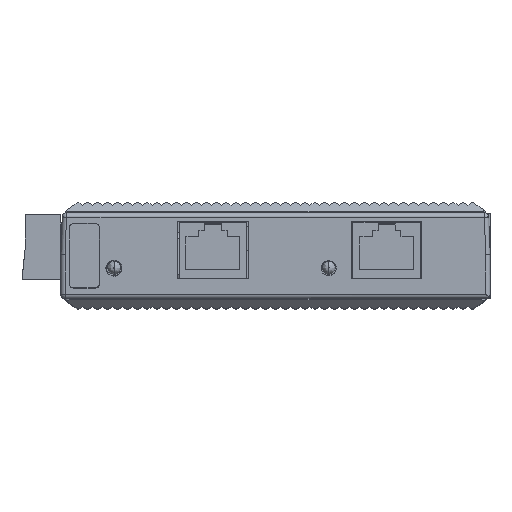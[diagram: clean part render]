
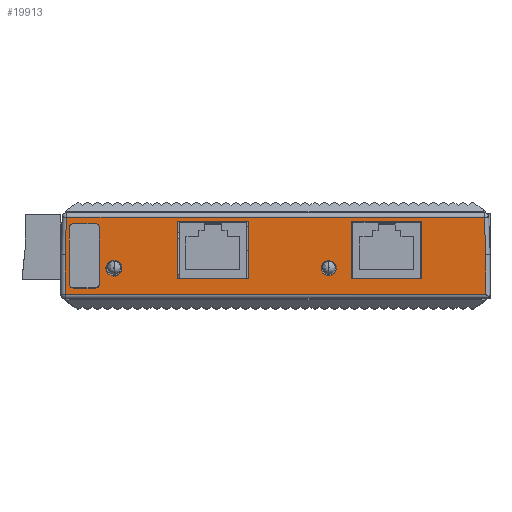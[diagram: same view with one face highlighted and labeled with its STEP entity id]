
A CAD part, top view. The second image highlights one B-rep face of the part: STEP entity #19913.
In plain terms, the highlighted planar face has unit normal (0, 0, 1).
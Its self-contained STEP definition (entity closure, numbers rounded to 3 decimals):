
#5943=DIRECTION('',(1.,0.,0.));
#5944=VECTOR('',#5943,98.);
#5945=CARTESIAN_POINT('',(-49.,-9.,39.));
#5946=LINE('',#5945,#5944);
#5974=CARTESIAN_POINT('',(-49.,0.233,39.));
#5976=DIRECTION('',(0.,-1.,0.));
#5977=VECTOR('',#5976,9.233);
#5978=CARTESIAN_POINT('',(-49.,0.233,39.));
#5979=LINE('',#5978,#5977);
#8648=CARTESIAN_POINT('',(-37.8,-2.9,39.));
#8649=DIRECTION('',(0.,0.,-1.));
#8650=DIRECTION('',(-0.724,-0.689,0.));
#8651=AXIS2_PLACEMENT_3D('',#8648,#8649,#8650);
#8657=CARTESIAN_POINT('',(-37.6,-2.9,39.));
#8658=DIRECTION('',(0.,0.,-1.));
#8659=DIRECTION('',(-0.774,0.634,0.));
#8660=AXIS2_PLACEMENT_3D('',#8657,#8658,#8659);
#8662=CARTESIAN_POINT('',(-42.,6.5,39.));
#8663=DIRECTION('',(0.,0.,1.));
#8664=DIRECTION('',(1.,0.,0.));
#8665=AXIS2_PLACEMENT_3D('',#8662,#8663,#8664);
#8667=DIRECTION('',(-1.,0.,0.));
#8668=VECTOR('',#8667,5.);
#8669=CARTESIAN_POINT('',(-42.,7.526,39.));
#8670=LINE('',#8669,#8668);
#8671=CARTESIAN_POINT('',(-47.,6.5,39.));
#8672=DIRECTION('',(0.,0.,1.));
#8673=DIRECTION('',(0.,1.,0.));
#8674=AXIS2_PLACEMENT_3D('',#8671,#8672,#8673);
#8676=DIRECTION('',(0.,-1.,0.));
#8677=VECTOR('',#8676,13.);
#8678=CARTESIAN_POINT('',(-48.026,6.5,39.));
#8679=LINE('',#8678,#8677);
#8680=CARTESIAN_POINT('',(-47.,-6.5,39.));
#8681=DIRECTION('',(0.,0.,1.));
#8682=DIRECTION('',(-1.,0.,0.));
#8683=AXIS2_PLACEMENT_3D('',#8680,#8681,#8682);
#8685=DIRECTION('',(1.,0.,0.));
#8686=VECTOR('',#8685,5.);
#8687=CARTESIAN_POINT('',(-47.,-7.526,39.));
#8688=LINE('',#8687,#8686);
#8689=CARTESIAN_POINT('',(-42.,-6.5,39.));
#8690=DIRECTION('',(0.,0.,1.));
#8691=DIRECTION('',(0.,-1.,0.));
#8692=AXIS2_PLACEMENT_3D('',#8689,#8690,#8691);
#8694=DIRECTION('',(1.,0.,0.));
#8695=VECTOR('',#8694,80.862);
#8696=CARTESIAN_POINT('',(-35.431,9.,39.));
#8697=LINE('',#8696,#8695);
#8698=DIRECTION('',(0.035,0.999,0.));
#8699=VECTOR('',#8698,8.773);
#8700=CARTESIAN_POINT('',(-49.,0.233,39.));
#8701=LINE('',#8700,#8699);
#8702=DIRECTION('',(-1.,0.,0.));
#8703=VECTOR('',#8702,16.4);
#8704=CARTESIAN_POINT('',(34.145,8.05,39.));
#8705=LINE('',#8704,#8703);
#8706=DIRECTION('',(0.,-1.,0.));
#8707=VECTOR('',#8706,13.45);
#8708=CARTESIAN_POINT('',(17.745,8.05,39.));
#8709=LINE('',#8708,#8707);
#8710=DIRECTION('',(1.,0.,0.));
#8711=VECTOR('',#8710,16.4);
#8712=CARTESIAN_POINT('',(17.745,-5.4,39.));
#8713=LINE('',#8712,#8711);
#8714=DIRECTION('',(0.,1.,0.));
#8715=VECTOR('',#8714,13.45);
#8716=CARTESIAN_POINT('',(34.145,-5.4,39.));
#8717=LINE('',#8716,#8715);
#8718=DIRECTION('',(-1.,0.,0.));
#8719=VECTOR('',#8718,16.4);
#8720=CARTESIAN_POINT('',(-6.355,8.05,39.));
#8721=LINE('',#8720,#8719);
#8722=DIRECTION('',(0.,-1.,0.));
#8723=VECTOR('',#8722,13.45);
#8724=CARTESIAN_POINT('',(-22.755,8.05,39.));
#8725=LINE('',#8724,#8723);
#8726=DIRECTION('',(1.,0.,0.));
#8727=VECTOR('',#8726,16.4);
#8728=CARTESIAN_POINT('',(-22.755,-5.4,39.));
#8729=LINE('',#8728,#8727);
#8730=DIRECTION('',(0.,1.,0.));
#8731=VECTOR('',#8730,13.45);
#8732=CARTESIAN_POINT('',(-6.355,-5.4,39.));
#8733=LINE('',#8732,#8731);
#8734=CARTESIAN_POINT('',(12.4,-2.9,39.));
#8735=DIRECTION('',(0.,0.,1.));
#8736=DIRECTION('',(0.,-1.,0.));
#8737=AXIS2_PLACEMENT_3D('',#8734,#8735,#8736);
#8739=CARTESIAN_POINT('',(12.4,-2.9,39.));
#8740=DIRECTION('',(0.,0.,1.));
#8741=DIRECTION('',(0.,1.,0.));
#8742=AXIS2_PLACEMENT_3D('',#8739,#8740,#8741);
#8744=DIRECTION('',(0.,-1.,0.));
#8745=VECTOR('',#8744,13.);
#8746=CARTESIAN_POINT('',(-40.974,6.5,39.));
#8747=LINE('',#8746,#8745);
#8825=DIRECTION('',(-1.,0.,0.));
#8826=VECTOR('',#8825,3.263);
#8827=CARTESIAN_POINT('',(48.694,9.,39.));
#8828=LINE('',#8827,#8826);
#8829=DIRECTION('',(-1.,0.,0.));
#8830=VECTOR('',#8829,13.263);
#8831=CARTESIAN_POINT('',(-35.431,9.,39.));
#8832=LINE('',#8831,#8830);
#10558=DIRECTION('',(0.,1.,0.));
#10559=VECTOR('',#10558,9.233);
#10560=CARTESIAN_POINT('',(49.,-9.,39.));
#10561=LINE('',#10560,#10559);
#10578=DIRECTION('',(-0.035,0.999,0.));
#10579=VECTOR('',#10578,8.773);
#10580=CARTESIAN_POINT('',(49.,0.233,39.));
#10581=LINE('',#10580,#10579);
#10593=CARTESIAN_POINT('',(49.,0.233,39.));
#13782=CARTESIAN_POINT('',(-48.694,9.,39.));
#13783=VERTEX_POINT('',#13782);
#13788=CARTESIAN_POINT('',(48.694,9.,39.));
#13789=VERTEX_POINT('',#13788);
#13791=VERTEX_POINT('',#5974);
#13793=VERTEX_POINT('',#10593);
#13798=CARTESIAN_POINT('',(-49.,-9.,39.));
#13799=VERTEX_POINT('',#13798);
#14111=CARTESIAN_POINT('',(49.,-9.,39.));
#14112=VERTEX_POINT('',#14111);
#14775=CARTESIAN_POINT('',(-39.035,-1.725,39.));
#14776=CARTESIAN_POINT('',(-39.035,-4.075,39.));
#14777=VERTEX_POINT('',#14775);
#14778=VERTEX_POINT('',#14776);
#15079=CARTESIAN_POINT('',(-47.,7.526,39.));
#15080=CARTESIAN_POINT('',(-48.026,6.5,39.));
#15081=VERTEX_POINT('',#15079);
#15082=VERTEX_POINT('',#15080);
#15083=CARTESIAN_POINT('',(-48.026,-6.5,39.));
#15084=VERTEX_POINT('',#15083);
#15085=CARTESIAN_POINT('',(-47.,-7.526,39.));
#15086=VERTEX_POINT('',#15085);
#15087=CARTESIAN_POINT('',(-42.,-7.526,39.));
#15088=VERTEX_POINT('',#15087);
#15089=CARTESIAN_POINT('',(-40.974,-6.5,39.));
#15090=VERTEX_POINT('',#15089);
#15091=CARTESIAN_POINT('',(-40.974,6.5,39.));
#15092=CARTESIAN_POINT('',(-42.,7.526,39.));
#15093=VERTEX_POINT('',#15091);
#15094=VERTEX_POINT('',#15092);
#15914=CARTESIAN_POINT('',(45.431,9.,39.));
#15915=VERTEX_POINT('',#15914);
#15916=CARTESIAN_POINT('',(-35.431,9.,39.));
#15917=VERTEX_POINT('',#15916);
#15922=CARTESIAN_POINT('',(34.145,8.05,39.));
#15923=CARTESIAN_POINT('',(17.745,8.05,39.));
#15924=VERTEX_POINT('',#15922);
#15925=VERTEX_POINT('',#15923);
#15926=CARTESIAN_POINT('',(17.745,-5.4,39.));
#15927=VERTEX_POINT('',#15926);
#15928=CARTESIAN_POINT('',(34.145,-5.4,39.));
#15929=VERTEX_POINT('',#15928);
#15930=CARTESIAN_POINT('',(-6.355,8.05,39.));
#15931=CARTESIAN_POINT('',(-22.755,8.05,39.));
#15932=VERTEX_POINT('',#15930);
#15933=VERTEX_POINT('',#15931);
#15934=CARTESIAN_POINT('',(-22.755,-5.4,39.));
#15935=VERTEX_POINT('',#15934);
#15936=CARTESIAN_POINT('',(-6.355,-5.4,39.));
#15937=VERTEX_POINT('',#15936);
#15970=CARTESIAN_POINT('',(12.4,-4.65,39.));
#15971=CARTESIAN_POINT('',(12.4,-1.15,39.));
#15972=VERTEX_POINT('',#15970);
#15973=VERTEX_POINT('',#15971);
#19844=CARTESIAN_POINT('',(0.,0.,39.));
#19845=DIRECTION('',(0.,0.,1.));
#19846=DIRECTION('',(1.,0.,0.));
#19847=AXIS2_PLACEMENT_3D('',#19844,#19845,#19846);
#19848=PLANE('',#19847);
#19850=ORIENTED_EDGE('',*,*,#19849,.F.);
#19852=ORIENTED_EDGE('',*,*,#19851,.T.);
#19854=ORIENTED_EDGE('',*,*,#19853,.F.);
#19856=ORIENTED_EDGE('',*,*,#19855,.F.);
#19858=ORIENTED_EDGE('',*,*,#19857,.F.);
#19859=ORIENTED_EDGE('',*,*,#16486,.F.);
#19860=ORIENTED_EDGE('',*,*,#16519,.F.);
#19862=ORIENTED_EDGE('',*,*,#19861,.T.);
#19863=EDGE_LOOP('',(#19850,#19852,#19854,#19856,#19858,#19859,#19860,#19862));
#19864=FACE_OUTER_BOUND('',#19863,.F.);
#19866=ORIENTED_EDGE('',*,*,#19865,.F.);
#19868=ORIENTED_EDGE('',*,*,#19867,.T.);
#19870=ORIENTED_EDGE('',*,*,#19869,.T.);
#19872=ORIENTED_EDGE('',*,*,#19871,.T.);
#19874=ORIENTED_EDGE('',*,*,#19873,.T.);
#19876=ORIENTED_EDGE('',*,*,#19875,.T.);
#19878=ORIENTED_EDGE('',*,*,#19877,.T.);
#19880=ORIENTED_EDGE('',*,*,#19879,.T.);
#19881=EDGE_LOOP('',(#19866,#19868,#19870,#19872,#19874,#19876,#19878,#19880));
#19882=FACE_BOUND('',#19881,.F.);
#19883=ORIENTED_EDGE('',*,*,#19838,.F.);
#19884=ORIENTED_EDGE('',*,*,#19824,.F.);
#19885=EDGE_LOOP('',(#19883,#19884));
#19886=FACE_BOUND('',#19885,.F.);
#19888=ORIENTED_EDGE('',*,*,#19887,.T.);
#19890=ORIENTED_EDGE('',*,*,#19889,.T.);
#19892=ORIENTED_EDGE('',*,*,#19891,.T.);
#19894=ORIENTED_EDGE('',*,*,#19893,.T.);
#19895=EDGE_LOOP('',(#19888,#19890,#19892,#19894));
#19896=FACE_BOUND('',#19895,.F.);
#19898=ORIENTED_EDGE('',*,*,#19897,.T.);
#19900=ORIENTED_EDGE('',*,*,#19899,.T.);
#19902=ORIENTED_EDGE('',*,*,#19901,.T.);
#19904=ORIENTED_EDGE('',*,*,#19903,.T.);
#19905=EDGE_LOOP('',(#19898,#19900,#19902,#19904));
#19906=FACE_BOUND('',#19905,.F.);
#19908=ORIENTED_EDGE('',*,*,#19907,.T.);
#19910=ORIENTED_EDGE('',*,*,#19909,.T.);
#19911=EDGE_LOOP('',(#19908,#19910));
#19912=FACE_BOUND('',#19911,.F.);
#19913=ADVANCED_FACE('',(#19864,#19882,#19886,#19896,#19906,#19912),#19848,.T.);
#8652=CIRCLE('',#8651,1.705);
#8661=CIRCLE('',#8660,1.855);
#8666=CIRCLE('',#8665,1.026);
#8675=CIRCLE('',#8674,1.026);
#8684=CIRCLE('',#8683,1.026);
#8693=CIRCLE('',#8692,1.026);
#8738=CIRCLE('',#8737,1.75);
#8743=CIRCLE('',#8742,1.75);
#16486=EDGE_CURVE('',#13799,#14112,#5946,.T.);
#16519=EDGE_CURVE('',#13791,#13799,#5979,.T.);
#19824=EDGE_CURVE('',#14778,#14777,#8652,.T.);
#19838=EDGE_CURVE('',#14777,#14778,#8661,.T.);
#19849=EDGE_CURVE('',#15917,#13783,#8832,.T.);
#19851=EDGE_CURVE('',#15917,#15915,#8697,.T.);
#19853=EDGE_CURVE('',#13789,#15915,#8828,.T.);
#19855=EDGE_CURVE('',#13793,#13789,#10581,.T.);
#19857=EDGE_CURVE('',#14112,#13793,#10561,.T.);
#19861=EDGE_CURVE('',#13791,#13783,#8701,.T.);
#19865=EDGE_CURVE('',#15093,#15090,#8747,.T.);
#19867=EDGE_CURVE('',#15093,#15094,#8666,.T.);
#19869=EDGE_CURVE('',#15094,#15081,#8670,.T.);
#19871=EDGE_CURVE('',#15081,#15082,#8675,.T.);
#19873=EDGE_CURVE('',#15082,#15084,#8679,.T.);
#19875=EDGE_CURVE('',#15084,#15086,#8684,.T.);
#19877=EDGE_CURVE('',#15086,#15088,#8688,.T.);
#19879=EDGE_CURVE('',#15088,#15090,#8693,.T.);
#19887=EDGE_CURVE('',#15924,#15925,#8705,.T.);
#19889=EDGE_CURVE('',#15925,#15927,#8709,.T.);
#19891=EDGE_CURVE('',#15927,#15929,#8713,.T.);
#19893=EDGE_CURVE('',#15929,#15924,#8717,.T.);
#19897=EDGE_CURVE('',#15932,#15933,#8721,.T.);
#19899=EDGE_CURVE('',#15933,#15935,#8725,.T.);
#19901=EDGE_CURVE('',#15935,#15937,#8729,.T.);
#19903=EDGE_CURVE('',#15937,#15932,#8733,.T.);
#19907=EDGE_CURVE('',#15972,#15973,#8738,.T.);
#19909=EDGE_CURVE('',#15973,#15972,#8743,.T.);
